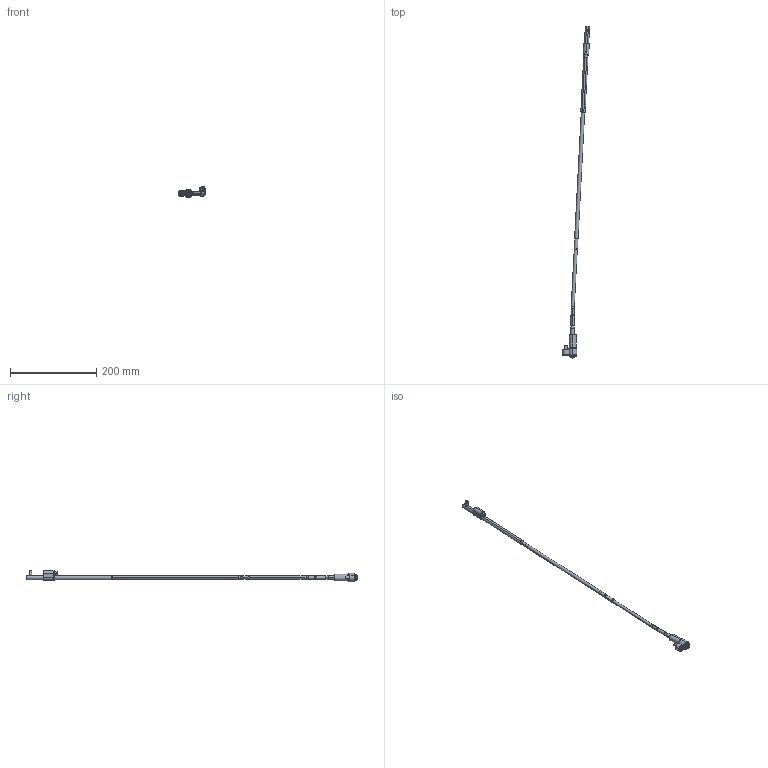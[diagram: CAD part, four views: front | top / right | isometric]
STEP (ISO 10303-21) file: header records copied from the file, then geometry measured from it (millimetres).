
FILE_DESCRIPTION (( 'STEP AP214' ), '1' );
FILE_NAME ('WL080125-EJE 3°.STEP', '2021-03-19T15:29:22', ( '' ), ( '' ), 'SwSTEP 2.0', 'SolidWorks 2019', '' );
FILE_SCHEMA (( 'AUTOMOTIVE_DESIGN' ));
Length unit declared in the file: millimetre
Products named in the file (17): 1DIN912545_DIN 912 M5 x 50 --- 50C; Web-WL08-A2; WL080125-EJE 3°; Web-WL08-A3; WL080100-E; WL080100-B_WL0800FF; WL080100-B1_WL0800FF-1; 1DIN912616_DIN 912 M6 x 16 --- 16C; Web-WP08-1; WL080100-C; WL080100-D; 3IMAN4X2-150_con sello; 9DR2206-TOR; Web-WL08-F00.SLDPRT; Web-WL08-A1; Web-WL08XX-A7_ON-WL080125-3; Web-WL08-F01
Assembly tree (16 placements, depth 3):
  WL080125-EJE 3°
    Web-WP08-1
    Web-WL08XX-A7_ON-WL080125-3
    Web-WL08-A3
    Web-WL08-A2
    Web-WL08-A1
    WL080100-D
    WL080100-C
    WL080100-B_WL0800FF
      WL080100-B1_WL0800FF-1
      3IMAN4X2-150_con sello
    WL080100-E
    9DR2206-TOR
    Web-WL08-F00.SLDPRT
      Web-WL08-F01
      1DIN912545_DIN 912 M5 x 50 --- 50C
      1DIN912616_DIN 912 M6 x 16 --- 16C
Bounding box: 63.13 x 771.35 x 26.9 mm (x, y, z)
Volume: 58701.5 mm3; surface area: 34415.9 mm2
Topology: 15 solids, 15 shells, 424 faces, 888 edges, 516 vertices
Faces by surface type: plane 132, cylinder 128, cone 116, torus 48
Entity records: 13492 total; most frequent: DIRECTION 2218, CARTESIAN_POINT 2045, ORIENTED_EDGE 1756, AXIS2_PLACEMENT_3D 921, EDGE_CURVE 878, VERTEX_POINT 516, CIRCLE 476, EDGE_LOOP 468
